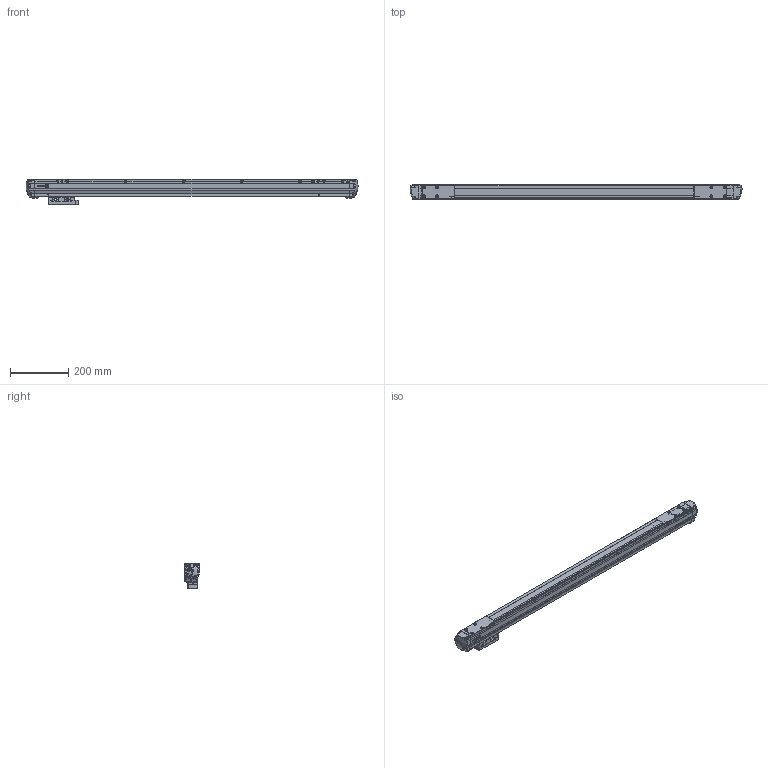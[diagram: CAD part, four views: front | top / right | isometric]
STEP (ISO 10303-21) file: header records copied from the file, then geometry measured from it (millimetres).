
FILE_DESCRIPTION(('Creo Elements/Direct Modeling STEP Export'),'2;1');
FILE_NAME('Li-8.stp','2017-01-11T10:05:13',(''),(''),'Creo Elements/Direct Modeling STEP processor for AP214 (Solid Model)','Creo Elements/Direct Modeling 18.1H 24-Oct-2015 (C) Parametric Technology GmbH','');
FILE_SCHEMA(('AUTOMOTIVE_DESIGN { 1 0 10303 214 1 1 1 1 }'));
Length unit declared in the file: millimetre
Products named in the file (8): CABEZA; Li-8_PERFIL; TAPA_DERECHA; TAPA_IZQUIERDA
Assembly tree (4 placements, depth 2):
  CABEZA
    CABEZA
  Li-8_PERFIL
    Li-8_PERFIL
  TAPA_DERECHA
    TAPA_DERECHA
  TAPA_IZQUIERDA
    TAPA_IZQUIERDA
Bounding box: 1141.61 x 50 x 86.45 mm (x, y, z)
Volume: 2883226.1 mm3; surface area: 404481.9 mm2
Topology: 5 solids, 26 shells, 2733 faces, 7259 edges, 4674 vertices
Faces by surface type: plane 1060, cylinder 919, bspline 367, cone 250, torus 111, sphere 24, extrusion 2
Entity records: 127228 total; most frequent: CARTESIAN_POINT 54590, ORIENTED_EDGE 14468, DIRECTION 11374, EDGE_CURVE 7233, VERTEX_POINT 4672, AXIS2_PLACEMENT_3D 4011, VECTOR 3352, LINE 3350
